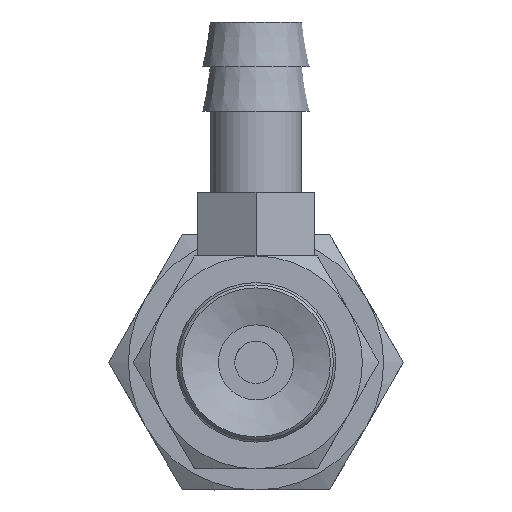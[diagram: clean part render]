
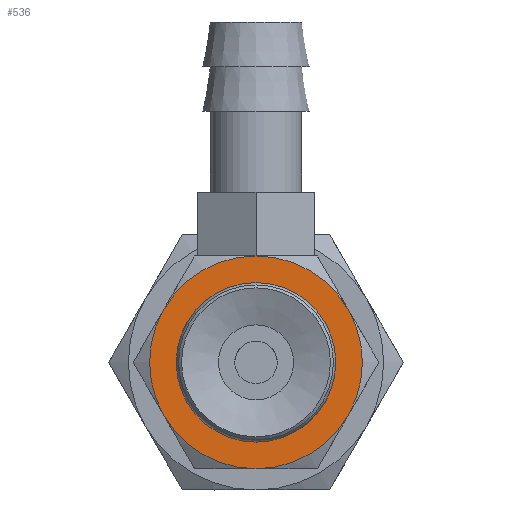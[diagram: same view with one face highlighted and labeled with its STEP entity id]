
A CAD part, front view. The second image highlights one B-rep face of the part: STEP entity #536.
In plain terms, the highlighted planar face has unit normal (0, -1, 0).
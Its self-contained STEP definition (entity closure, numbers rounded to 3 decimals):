
#536=ADVANCED_FACE('',(#788,#789),#790,.T.);
#788=FACE_BOUND('',#1144,.T.);
#789=FACE_OUTER_BOUND('',#1145,.T.);
#790=PLANE('',#1146);
#1144=EDGE_LOOP('',(#1873));
#1145=EDGE_LOOP('',(#1874,#1875,#1876,#1877,#1878,#1879));
#1146=AXIS2_PLACEMENT_3D('',#1880,#1881,#1882);
#1873=ORIENTED_EDGE('',*,*,#2396,.F.);
#1874=ORIENTED_EDGE('',*,*,#2341,.T.);
#1875=ORIENTED_EDGE('',*,*,#2405,.T.);
#1876=ORIENTED_EDGE('',*,*,#2343,.T.);
#1877=ORIENTED_EDGE('',*,*,#2406,.T.);
#1878=ORIENTED_EDGE('',*,*,#2322,.T.);
#1879=ORIENTED_EDGE('',*,*,#2337,.T.);
#1880=CARTESIAN_POINT('',(2.0,0.,0.0));
#1881=DIRECTION('',(0.0,-1.0,0.0));
#1882=DIRECTION('',(0.0,0.0,-1.0));
#2322=EDGE_CURVE('',#2620,#2634,#2636,.T.);
#2337=EDGE_CURVE('',#2634,#2652,#2663,.T.);
#2341=EDGE_CURVE('',#2652,#2666,#2668,.T.);
#2343=EDGE_CURVE('',#2669,#2637,#2671,.T.);
#2396=EDGE_CURVE('',#2762,#2762,#2763,.T.);
#2405=EDGE_CURVE('',#2666,#2669,#2777,.T.);
#2406=EDGE_CURVE('',#2637,#2620,#2778,.T.);
#2620=VERTEX_POINT('',#3324);
#2634=VERTEX_POINT('',#3350);
#2636=CIRCLE('',#3354,5.0);
#2637=VERTEX_POINT('',#3355);
#2652=VERTEX_POINT('',#3381);
#2663=CIRCLE('',#3402,5.0);
#2666=VERTEX_POINT('',#3409);
#2668=CIRCLE('',#3413,5.0);
#2669=VERTEX_POINT('',#3414);
#2671=CIRCLE('',#3418,5.0);
#2762=VERTEX_POINT('',#3594);
#2763=CIRCLE('',#3595,2.0);
#2777=CIRCLE('',#3617,5.0);
#2778=CIRCLE('',#3618,5.0);
#3324=CARTESIAN_POINT('',(-4.33,0.,2.5));
#3350=CARTESIAN_POINT('',(-4.33,0.0,-2.5));
#3354=AXIS2_PLACEMENT_3D('',#3875,#3876,#3877);
#3355=CARTESIAN_POINT('',(0.0,0.0,5.0));
#3381=CARTESIAN_POINT('',(0.0,0.0,-5.0));
#3402=AXIS2_PLACEMENT_3D('',#3887,#3888,#3889);
#3409=CARTESIAN_POINT('',(4.33,0.0,-2.5));
#3413=AXIS2_PLACEMENT_3D('',#3890,#3891,#3892);
#3414=CARTESIAN_POINT('',(4.33,0.0,2.5));
#3418=AXIS2_PLACEMENT_3D('',#3893,#3894,#3895);
#3594=CARTESIAN_POINT('',(0.0,0.,-2.0));
#3595=AXIS2_PLACEMENT_3D('',#3984,#3985,#3986);
#3617=AXIS2_PLACEMENT_3D('',#3998,#3999,#4000);
#3618=AXIS2_PLACEMENT_3D('',#4001,#4002,#4003);
#3875=CARTESIAN_POINT('',(0.0,0.,0.0));
#3876=DIRECTION('',(0.0,-1.0,0.0));
#3877=DIRECTION('',(0.0,0.0,-1.0));
#3887=CARTESIAN_POINT('',(0.0,0.,0.0));
#3888=DIRECTION('',(0.0,-1.0,0.0));
#3889=DIRECTION('',(0.0,0.0,-1.0));
#3890=CARTESIAN_POINT('',(0.0,0.,0.0));
#3891=DIRECTION('',(0.0,-1.0,0.0));
#3892=DIRECTION('',(0.0,0.0,-1.0));
#3893=CARTESIAN_POINT('',(0.0,0.,0.0));
#3894=DIRECTION('',(0.0,-1.0,0.0));
#3895=DIRECTION('',(0.0,0.0,-1.0));
#3984=CARTESIAN_POINT('',(0.0,0.,0.0));
#3985=DIRECTION('',(0.0,-1.0,0.0));
#3986=DIRECTION('',(0.0,0.0,-1.0));
#3998=CARTESIAN_POINT('',(0.0,0.,0.0));
#3999=DIRECTION('',(0.0,-1.0,0.0));
#4000=DIRECTION('',(0.0,0.0,-1.0));
#4001=CARTESIAN_POINT('',(0.0,0.,0.0));
#4002=DIRECTION('',(0.0,-1.0,0.0));
#4003=DIRECTION('',(0.0,0.0,-1.0));
